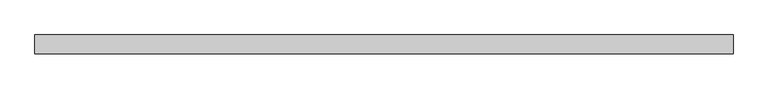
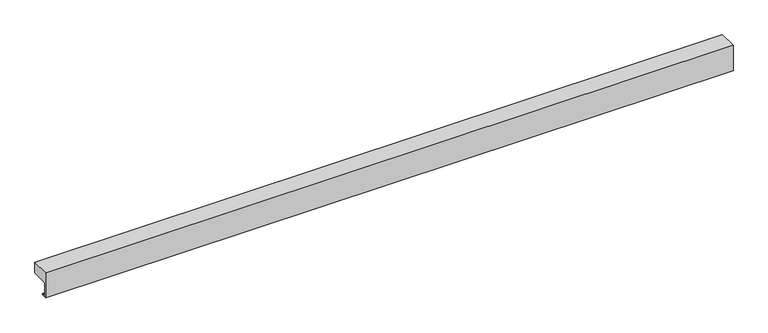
"""IFC4 building model written with IfcOpenShell, lengths in millimetres: proxy geometry, H-QTRGE-84."""

from ifc_helpers import new_model, si_unit, frame, origin, place, context, project, spatial, polyline, outline, extrude, source, transform, mapped, element, save


def generic_models_df8657d8(model_context):
    return source(origin(), model_context, "Body", "SweptSolid", [
        extrude(outline(polyline([(57.15, -34.925), (3.175, -34.925), (3.175, -78.9251419), (16.0836488, -77.2096393), (16.501915, -80.356968), (0.0, -82.55), (0.0, 0.0), (57.15, 0.0), (57.15, -34.925)])), frame((0.0, 0.0, 0.0), z_axis=(1.0, 0.0, 0.0), x_axis=(0.0, 1.0, 0.0)), (0.0, 0.0, 1.0), 2133.6),
    ])


if __name__ == "__main__":
    model = new_model("IFC4")
    model_context = context("Model", 3, world=origin())
    ifc_project = project(units=[si_unit("LENGTHUNIT", "METRE", prefix="MILLI")], contexts=[model_context])
    site = spatial("IfcSite", under=ifc_project)
    building = spatial("IfcBuilding", under=site)
    placement = place(None, origin())
    generic_models_shape = generic_models_df8657d8(model_context)
    element("IfcBuildingElementProxy", 1, Name="H-QTRGE-84", ObjectType="H-QTRGE-84", at=placement, inside=building, context=model_context, shape_type="MappedRepresentation", body=[
        mapped(generic_models_shape, transform((0.0, 0.0, 0.0), x_axis=(1.0, 0.0, 0.0), y_axis=(0.0, 1.0, 0.0), z_axis=(0.0, 0.0, 1.0))),
    ])
    save(model, "model.ifc")
